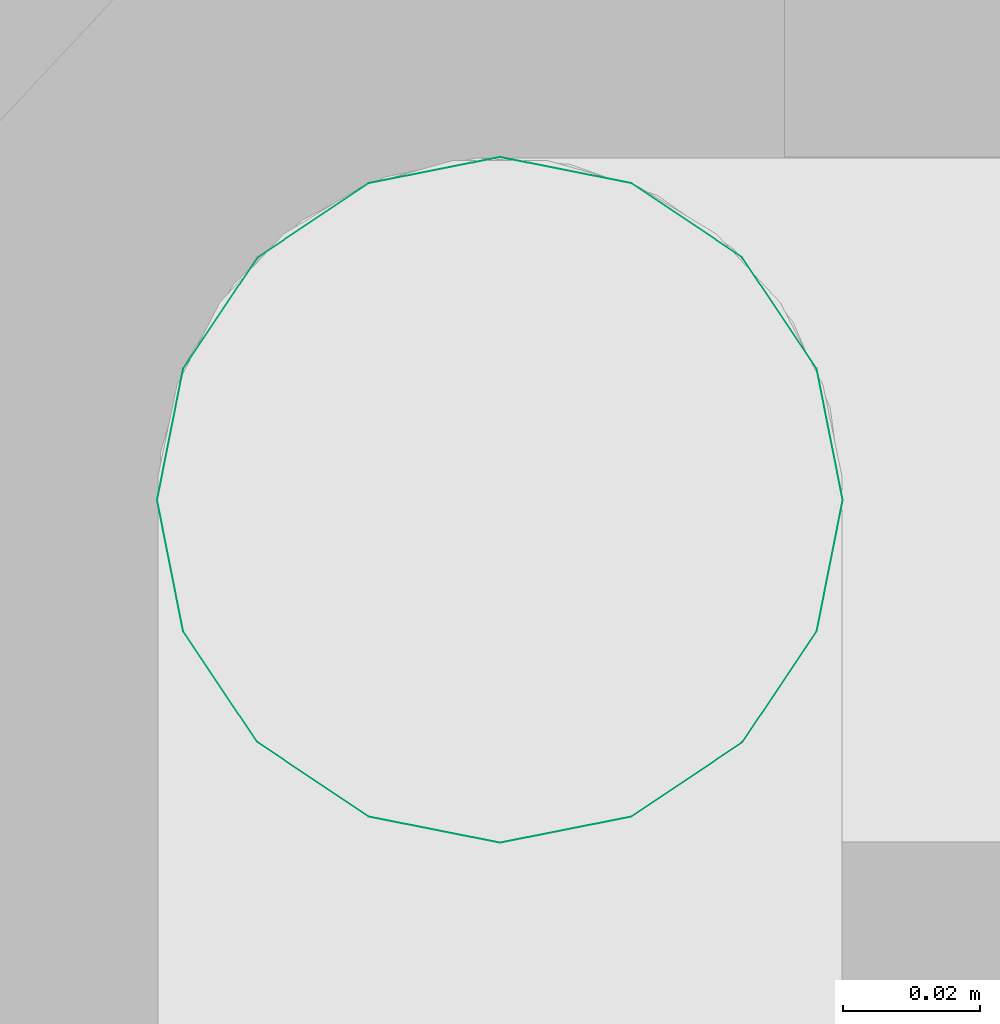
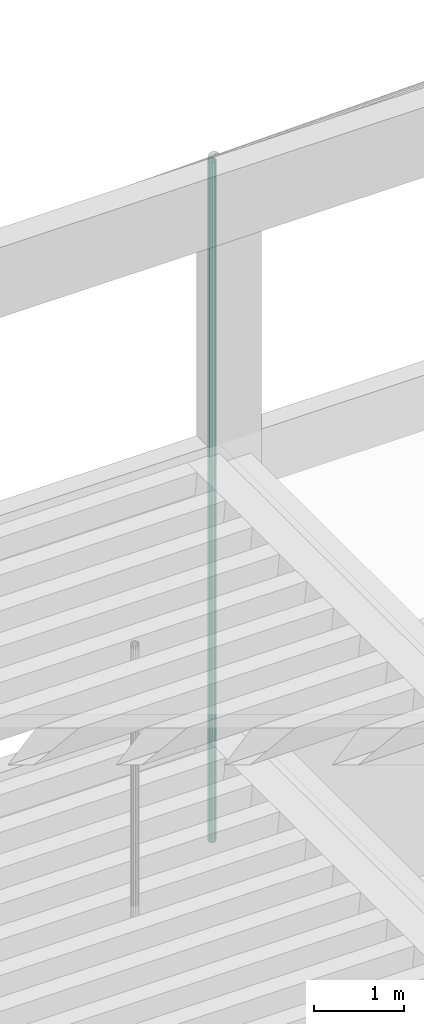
# One storey, part 56 of 106: 1 flow segment.
"""IFC2X3 building model written with IfcOpenShell, lengths in metres."""

from ifc_helpers import new_model, entity, si_unit, converted_unit, derived_unit, money_unit, direction, frame, origin_with_axes, place, context, subcontext, project, spatial, faceted_brep, material, type_object, element, save


model = new_model("IFC2X3")

# Units and contexts
model_context = context("Model", 3, precision=1e-05, world=origin_with_axes(), true_north=direction((0.0, 1.0)))
body_context = subcontext(model_context, "Body", "Model", "MODEL_VIEW", scale=1.0)
ifc_project = project(units=[si_unit("LENGTHUNIT", "METRE"), si_unit("AREAUNIT", "SQUARE_METRE"), si_unit("VOLUMEUNIT", "CUBIC_METRE"), si_unit("ABSORBEDDOSEUNIT", "GRAY"), si_unit("AMOUNTOFSUBSTANCEUNIT", "MOLE"), si_unit("DOSEEQUIVALENTUNIT", "SIEVERT"), si_unit("ELECTRICCAPACITANCEUNIT", "FARAD"), si_unit("ELECTRICCHARGEUNIT", "COULOMB"), si_unit("ELECTRICCONDUCTANCEUNIT", "SIEMENS"), si_unit("ELECTRICCURRENTUNIT", "AMPERE"), si_unit("ELECTRICRESISTANCEUNIT", "OHM"), si_unit("ELECTRICVOLTAGEUNIT", "VOLT"), si_unit("ENERGYUNIT", "JOULE"), si_unit("FORCEUNIT", "NEWTON"), si_unit("FREQUENCYUNIT", "HERTZ"), si_unit("ILLUMINANCEUNIT", "LUX"), si_unit("INDUCTANCEUNIT", "HENRY"), si_unit("LUMINOUSFLUXUNIT", "LUMEN"), si_unit("LUMINOUSINTENSITYUNIT", "CANDELA"), si_unit("MAGNETICFLUXDENSITYUNIT", "TESLA"), si_unit("MAGNETICFLUXUNIT", "WEBER"), si_unit("MASSUNIT", "GRAM"), converted_unit("PLANEANGLEUNIT", "degree", entity("IfcReal", 0.0174532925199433), si_unit("PLANEANGLEUNIT", "RADIAN"), dimensions=[0, 0, 0, 0, 0, 0, 0]), si_unit("POWERUNIT", "WATT"), si_unit("PRESSUREUNIT", "PASCAL"), si_unit("RADIOACTIVITYUNIT", "BECQUEREL"), si_unit("SOLIDANGLEUNIT", "STERADIAN"), si_unit("THERMODYNAMICTEMPERATUREUNIT", "KELVIN"), si_unit("TIMEUNIT", "SECOND"), derived_unit("ACCELERATIONUNIT", [(si_unit("LENGTHUNIT", "METRE"), 1), (si_unit("TIMEUNIT", "SECOND"), -2)]), derived_unit("ANGULARVELOCITYUNIT", [(converted_unit("PLANEANGLEUNIT", "degree", entity("IfcReal", 0.0174532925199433), si_unit("PLANEANGLEUNIT", "RADIAN"), dimensions=[0, 0, 0, 0, 0, 0, 0]), 1), (si_unit("TIMEUNIT", "SECOND"), -1)]), derived_unit("CURVATUREUNIT", [(converted_unit("PLANEANGLEUNIT", "degree", entity("IfcReal", 0.0174532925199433), si_unit("PLANEANGLEUNIT", "RADIAN"), dimensions=[0, 0, 0, 0, 0, 0, 0]), 1), (si_unit("LENGTHUNIT", "METRE"), -1)]), derived_unit("DYNAMICVISCOSITYUNIT", [(si_unit("PRESSUREUNIT", "PASCAL"), 1), (si_unit("TIMEUNIT", "SECOND"), 1)]), derived_unit("HEATFLUXDENSITYUNIT", [(si_unit("POWERUNIT", "WATT"), 1), (si_unit("LENGTHUNIT", "METRE"), -2)]), derived_unit("HEATINGVALUEUNIT", [(si_unit("ENERGYUNIT", "JOULE"), 1), (si_unit("MASSUNIT", "GRAM"), -1)]), derived_unit("INTEGERCOUNTRATEUNIT", [(si_unit("TIMEUNIT", "SECOND"), -1)]), derived_unit("IONCONCENTRATIONUNIT", [(si_unit("MASSUNIT", "GRAM"), 1), (si_unit("VOLUMEUNIT", "CUBIC_METRE"), -1)]), derived_unit("ISOTHERMALMOISTURECAPACITYUNIT", [(si_unit("VOLUMEUNIT", "CUBIC_METRE"), 1), (si_unit("MASSUNIT", "GRAM"), -1)]), derived_unit("KINEMATICVISCOSITYUNIT", [(si_unit("AREAUNIT", "SQUARE_METRE"), 1), (si_unit("TIMEUNIT", "SECOND"), -1)]), derived_unit("LINEARFORCEUNIT", [(si_unit("FORCEUNIT", "NEWTON"), 1), (si_unit("LENGTHUNIT", "METRE"), -1)]), derived_unit("LINEARMOMENTUNIT", [(si_unit("FORCEUNIT", "NEWTON"), 1), (si_unit("LENGTHUNIT", "METRE"), -1)]), derived_unit("LINEARSTIFFNESSUNIT", [(si_unit("FORCEUNIT", "NEWTON"), 1), (si_unit("LENGTHUNIT", "METRE"), -1)]), derived_unit("LINEARVELOCITYUNIT", [(si_unit("LENGTHUNIT", "METRE"), 1), (si_unit("TIMEUNIT", "SECOND"), -1)]), derived_unit("LUMINOUSINTENSITYDISTRIBUTIONUNIT", [(si_unit("LUMINOUSINTENSITYUNIT", "CANDELA"), 1), (si_unit("LUMINOUSFLUXUNIT", "LUMEN"), -1)]), derived_unit("MASSDENSITYUNIT", [(si_unit("MASSUNIT", "GRAM"), 1), (si_unit("VOLUMEUNIT", "CUBIC_METRE"), -1)]), derived_unit("MASSFLOWRATEUNIT", [(si_unit("MASSUNIT", "GRAM"), 1), (si_unit("TIMEUNIT", "SECOND"), -1)]), derived_unit("MASSPERLENGTHUNIT", [(si_unit("MASSUNIT", "GRAM"), 1), (si_unit("LENGTHUNIT", "METRE"), -1)]), derived_unit("MODULUSOFELASTICITYUNIT", [(si_unit("FORCEUNIT", "NEWTON"), 1), (si_unit("AREAUNIT", "SQUARE_METRE"), -1)]), derived_unit("MODULUSOFLINEARSUBGRADEREACTIONUNIT", [(si_unit("FORCEUNIT", "NEWTON"), 1), (si_unit("LENGTHUNIT", "METRE"), -2)]), derived_unit("MODULUSOFROTATIONALSUBGRADEREACTIONUNIT", [(si_unit("FORCEUNIT", "NEWTON"), 1), (si_unit("LENGTHUNIT", "METRE"), 1)]), derived_unit("MODULUSOFSUBGRADEREACTIONUNIT", [(si_unit("FORCEUNIT", "NEWTON"), 1), (si_unit("VOLUMEUNIT", "CUBIC_METRE"), -1)]), derived_unit("MOISTUREDIFFUSIVITYUNIT", [(si_unit("VOLUMEUNIT", "CUBIC_METRE"), 1), (si_unit("TIMEUNIT", "SECOND"), -1)]), derived_unit("MOLECULARWEIGHTUNIT", [(si_unit("MASSUNIT", "GRAM"), 1), (si_unit("AMOUNTOFSUBSTANCEUNIT", "MOLE"), -1)]), derived_unit("PLANARFORCEUNIT", [(si_unit("FORCEUNIT", "NEWTON"), 1), (si_unit("LENGTHUNIT", "METRE"), -2)]), derived_unit("ROTATIONALFREQUENCYUNIT", [(si_unit("TIMEUNIT", "SECOND"), -1)]), derived_unit("ROTATIONALMASSUNIT", [(si_unit("MASSUNIT", "GRAM"), 1), (si_unit("LENGTHUNIT", "METRE"), 2)]), derived_unit("ROTATIONALSTIFFNESSUNIT", [(si_unit("FORCEUNIT", "NEWTON"), 1), (si_unit("LENGTHUNIT", "METRE"), 1), (converted_unit("PLANEANGLEUNIT", "degree", entity("IfcReal", 0.0174532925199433), si_unit("PLANEANGLEUNIT", "RADIAN"), dimensions=[0, 0, 0, 0, 0, 0, 0]), -1)]), derived_unit("SECTIONAREAINTEGRALUNIT", [(si_unit("LENGTHUNIT", "METRE"), 5)]), derived_unit("SECTIONMODULUSUNIT", [(si_unit("LENGTHUNIT", "METRE"), 3)]), derived_unit("SHEARMODULUSUNIT", [(si_unit("FORCEUNIT", "NEWTON"), 1), (si_unit("AREAUNIT", "SQUARE_METRE"), -1)]), derived_unit("SOUNDPOWERUNIT", [(si_unit("ENERGYUNIT", "JOULE"), 1), (si_unit("TIMEUNIT", "SECOND"), -1)]), derived_unit("SPECIFICHEATCAPACITYUNIT", [(si_unit("FORCEUNIT", "NEWTON"), 1), (si_unit("MASSUNIT", "GRAM"), -1), (si_unit("THERMODYNAMICTEMPERATUREUNIT", "KELVIN"), -1)]), derived_unit("TEMPERATUREGRADIENTUNIT", [(si_unit("THERMODYNAMICTEMPERATUREUNIT", "KELVIN"), 1), (si_unit("LENGTHUNIT", "METRE"), -1)]), derived_unit("THERMALADMITTANCEUNIT", [(si_unit("POWERUNIT", "WATT"), 1), (si_unit("AREAUNIT", "SQUARE_METRE"), -1), (si_unit("THERMODYNAMICTEMPERATUREUNIT", "KELVIN"), -1)]), derived_unit("THERMALCONDUCTANCEUNIT", [(si_unit("POWERUNIT", "WATT"), 1), (si_unit("LENGTHUNIT", "METRE"), -1), (si_unit("THERMODYNAMICTEMPERATUREUNIT", "KELVIN"), -1)]), derived_unit("THERMALEXPANSIONCOEFFICIENTUNIT", [(si_unit("THERMODYNAMICTEMPERATUREUNIT", "KELVIN"), -1)]), derived_unit("THERMALRESISTANCEUNIT", [(si_unit("AREAUNIT", "SQUARE_METRE"), 1), (si_unit("POWERUNIT", "WATT"), -1)]), derived_unit("THERMALTRANSMITTANCEUNIT", [(si_unit("POWERUNIT", "WATT"), 1), (si_unit("AREAUNIT", "SQUARE_METRE"), -1), (si_unit("THERMODYNAMICTEMPERATUREUNIT", "KELVIN"), -1)]), derived_unit("TORQUEUNIT", [(si_unit("FORCEUNIT", "NEWTON"), 1), (si_unit("LENGTHUNIT", "METRE"), 1)]), derived_unit("VAPORPERMEABILITYUNIT", [(si_unit("MASSUNIT", "GRAM"), 1), (si_unit("TIMEUNIT", "SECOND"), -1)]), derived_unit("VOLUMETRICFLOWRATEUNIT", [(si_unit("VOLUMEUNIT", "CUBIC_METRE"), 1), (si_unit("TIMEUNIT", "SECOND"), -1)]), derived_unit("WARPINGCONSTANTUNIT", [(si_unit("LENGTHUNIT", "METRE"), 6)]), derived_unit("WARPINGMOMENTUNIT", [(si_unit("FORCEUNIT", "NEWTON"), 1), (si_unit("LENGTHUNIT", "METRE"), 2)]), money_unit("GBP")], contexts=[model_context])

# Site, building, storey
site_placement = place(None, origin_with_axes())
site = spatial("IfcSite", under=ifc_project, at=site_placement, Name="Site", CompositionType="ELEMENT")
building_placement = place(site_placement, origin_with_axes())
building = spatial("IfcBuilding", under=site, at=building_placement, Name="Building01", CompositionType="ELEMENT")
storey_placement = place(building_placement, origin_with_axes())
storey = spatial("IfcBuildingStorey", under=building, at=storey_placement, Name="GF", CompositionType="ELEMENT", Elevation=0.0)

# Flow segment
ifc_material = material(Name="M_BSUK_ColdWater")
pipe_segment_type = type_object("IfcPipeSegmentType", Name="M-BmpStraightpipe-DefaultPipe", PredefinedType="RIGIDSEGMENT")
flow_segment_placement = place(storey_placement, frame((9.112744, 14.95, 15.576024), z_axis=(0.0, -1.0, 0.0), x_axis=(0.0, 0.0, -1.0)))
element("IfcFlowSegment", 1, at=flow_segment_placement, inside=storey, type_object=pipe_segment_type, material=ifc_material, Name="M-BmpStraightpipe-DefaultPipe", ObjectType="M-BmpStraightpipe-DefaultPipe", context=body_context, shape_type="Brep", body=[
    faceted_brep([(9.229313, 0.0, -0.05), (0.0, 0.0, -0.05), (0.0, 0.019134, -0.046194), (9.229313, 0.019134, -0.046194), (0.0, 0.035355, -0.035355), (9.229313, 0.035355, -0.035355), (0.0, 0.046194, -0.019134), (9.229313, 0.046194, -0.019134), (0.0, 0.05, 0.0), (9.229313, 0.05, 0.0), (0.0, 0.046194, 0.019134), (9.229313, 0.046194, 0.019134), (0.0, 0.035355, 0.035355), (9.229313, 0.035355, 0.035355), (0.0, 0.019134, 0.046194), (9.229313, 0.019134, 0.046194), (0.0, 0.0, 0.05), (9.229313, 0.0, 0.05), (0.0, -0.019134, 0.046194), (9.229313, -0.019134, 0.046194), (0.0, -0.035355, 0.035355), (9.229313, -0.035355, 0.035355), (0.0, -0.046194, 0.019134), (9.229313, -0.046194, 0.019134), (0.0, -0.05, 0.0), (9.229313, -0.05, 0.0), (0.0, -0.046194, -0.019134), (9.229313, -0.046194, -0.019134), (0.0, -0.035355, -0.035355), (9.229313, -0.035355, -0.035355), (0.0, -0.019134, -0.046194), (9.229313, -0.019134, -0.046194)], [[[0, 1, 2, 3]], [[3, 2, 4, 5]], [[5, 4, 6, 7]], [[7, 6, 8, 9]], [[9, 8, 10, 11]], [[11, 10, 12, 13]], [[13, 12, 14, 15]], [[15, 14, 16, 17]], [[17, 16, 18, 19]], [[19, 18, 20, 21]], [[21, 20, 22, 23]], [[23, 22, 24, 25]], [[25, 24, 26, 27]], [[27, 26, 28, 29]], [[29, 28, 30, 31]], [[31, 30, 1, 0]]]),
])

save(model, "model.ifc")
